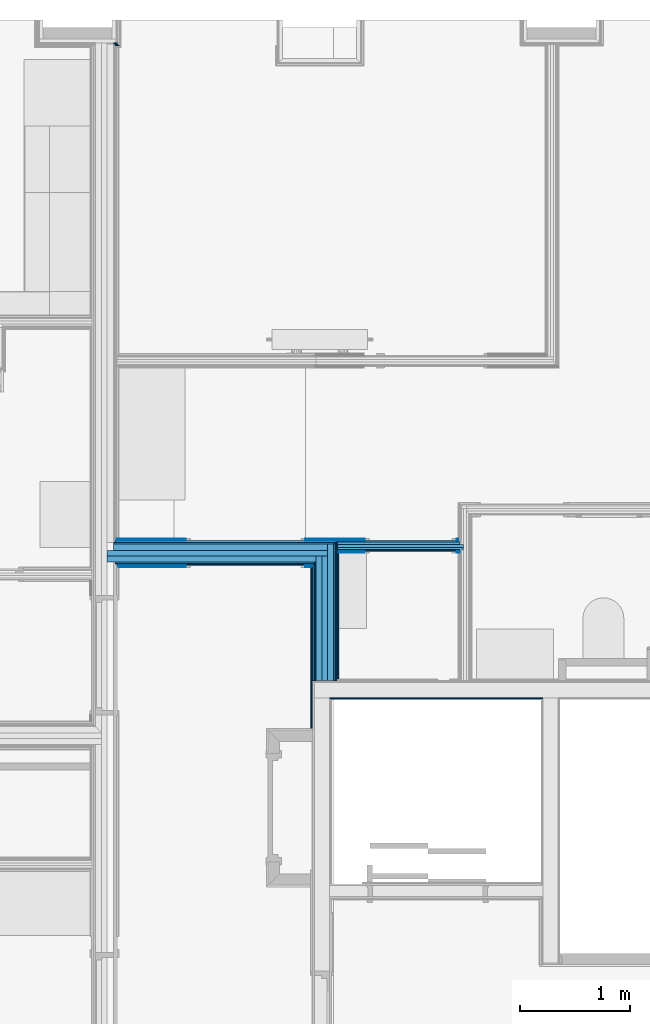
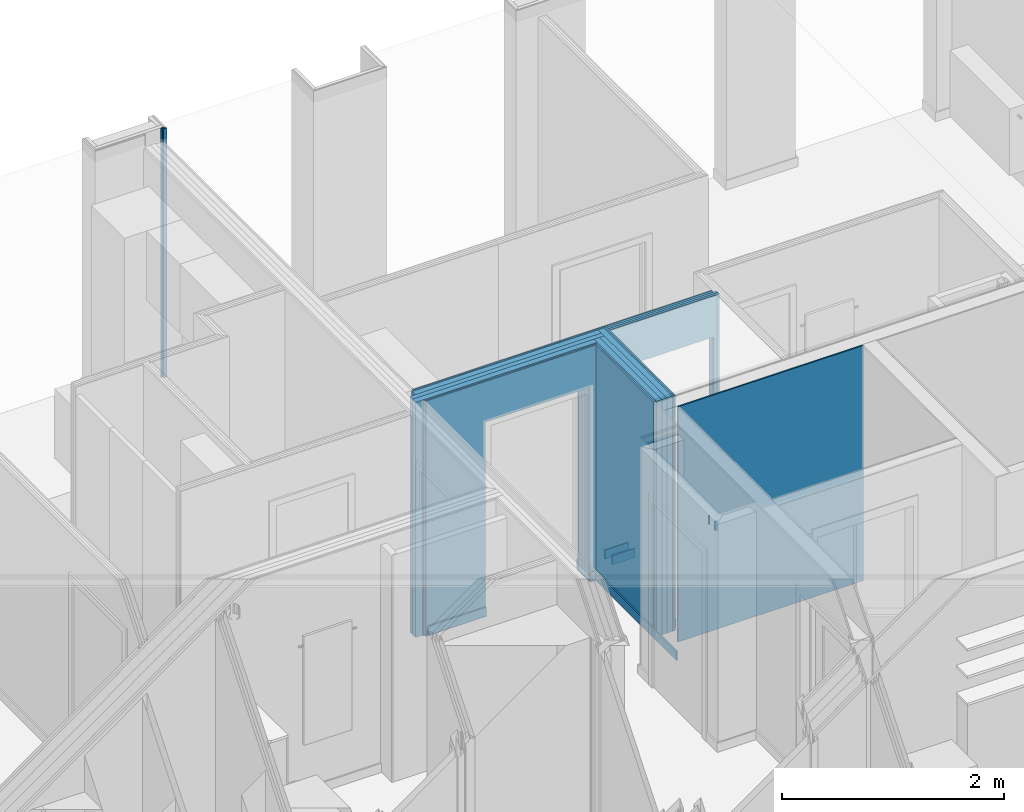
# One storey, part 15 of 85: 28 building element parts, 2 openings, 5 elements without a shape of their own.
"""IFC2X3 building model written with IfcOpenShell, lengths in metres."""

from ifc_helpers import new_model, entity, si_unit, converted_unit, derived_unit, money_unit, direction, frame, frame_2d, origin_with_axes, place, context, subcontext, project, spatial, polyline, rectangle, outline, extrude, material, type_object, element, aggregate, save


model = new_model("IFC2X3")

# Units and contexts
model_context = context("Model", 3, precision=1e-05, world=origin_with_axes(), true_north=direction((0.0, 1.0)))
body_context = subcontext(model_context, "Body", "Model", "MODEL_VIEW", scale=1.0)
ifc_project = project(units=[si_unit("LENGTHUNIT", "METRE"), si_unit("AREAUNIT", "SQUARE_METRE"), si_unit("VOLUMEUNIT", "CUBIC_METRE"), si_unit("ABSORBEDDOSEUNIT", "GRAY"), si_unit("AMOUNTOFSUBSTANCEUNIT", "MOLE"), si_unit("DOSEEQUIVALENTUNIT", "SIEVERT"), si_unit("ELECTRICCAPACITANCEUNIT", "FARAD"), si_unit("ELECTRICCHARGEUNIT", "COULOMB"), si_unit("ELECTRICCONDUCTANCEUNIT", "SIEMENS"), si_unit("ELECTRICCURRENTUNIT", "AMPERE"), si_unit("ELECTRICRESISTANCEUNIT", "OHM"), si_unit("ELECTRICVOLTAGEUNIT", "VOLT"), si_unit("ENERGYUNIT", "JOULE"), si_unit("FORCEUNIT", "NEWTON"), si_unit("FREQUENCYUNIT", "HERTZ"), si_unit("ILLUMINANCEUNIT", "LUX"), si_unit("INDUCTANCEUNIT", "HENRY"), si_unit("LUMINOUSFLUXUNIT", "LUMEN"), si_unit("LUMINOUSINTENSITYUNIT", "CANDELA"), si_unit("MAGNETICFLUXDENSITYUNIT", "TESLA"), si_unit("MAGNETICFLUXUNIT", "WEBER"), si_unit("MASSUNIT", "GRAM"), converted_unit("PLANEANGLEUNIT", "degree", entity("IfcReal", 0.0174532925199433), si_unit("PLANEANGLEUNIT", "RADIAN"), dimensions=[0, 0, 0, 0, 0, 0, 0]), si_unit("POWERUNIT", "WATT"), si_unit("PRESSUREUNIT", "PASCAL"), si_unit("RADIOACTIVITYUNIT", "BECQUEREL"), si_unit("SOLIDANGLEUNIT", "STERADIAN"), si_unit("THERMODYNAMICTEMPERATUREUNIT", "KELVIN"), si_unit("TIMEUNIT", "SECOND"), derived_unit("ACCELERATIONUNIT", [(si_unit("LENGTHUNIT", "METRE"), 1), (si_unit("TIMEUNIT", "SECOND"), -2)]), derived_unit("ANGULARVELOCITYUNIT", [(converted_unit("PLANEANGLEUNIT", "degree", entity("IfcReal", 0.0174532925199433), si_unit("PLANEANGLEUNIT", "RADIAN"), dimensions=[0, 0, 0, 0, 0, 0, 0]), 1), (si_unit("TIMEUNIT", "SECOND"), -1)]), derived_unit("CURVATUREUNIT", [(converted_unit("PLANEANGLEUNIT", "degree", entity("IfcReal", 0.0174532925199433), si_unit("PLANEANGLEUNIT", "RADIAN"), dimensions=[0, 0, 0, 0, 0, 0, 0]), 1), (si_unit("LENGTHUNIT", "METRE"), -1)]), derived_unit("DYNAMICVISCOSITYUNIT", [(si_unit("PRESSUREUNIT", "PASCAL"), 1), (si_unit("TIMEUNIT", "SECOND"), 1)]), derived_unit("HEATFLUXDENSITYUNIT", [(si_unit("POWERUNIT", "WATT"), 1), (si_unit("LENGTHUNIT", "METRE"), -2)]), derived_unit("HEATINGVALUEUNIT", [(si_unit("ENERGYUNIT", "JOULE"), 1), (si_unit("MASSUNIT", "GRAM"), -1)]), derived_unit("INTEGERCOUNTRATEUNIT", [(si_unit("TIMEUNIT", "SECOND"), -1)]), derived_unit("IONCONCENTRATIONUNIT", [(si_unit("MASSUNIT", "GRAM"), 1), (si_unit("VOLUMEUNIT", "CUBIC_METRE"), -1)]), derived_unit("ISOTHERMALMOISTURECAPACITYUNIT", [(si_unit("VOLUMEUNIT", "CUBIC_METRE"), 1), (si_unit("MASSUNIT", "GRAM"), -1)]), derived_unit("KINEMATICVISCOSITYUNIT", [(si_unit("AREAUNIT", "SQUARE_METRE"), 1), (si_unit("TIMEUNIT", "SECOND"), -1)]), derived_unit("LINEARFORCEUNIT", [(si_unit("FORCEUNIT", "NEWTON"), 1), (si_unit("LENGTHUNIT", "METRE"), -1)]), derived_unit("LINEARMOMENTUNIT", [(si_unit("FORCEUNIT", "NEWTON"), 1), (si_unit("LENGTHUNIT", "METRE"), -1)]), derived_unit("LINEARSTIFFNESSUNIT", [(si_unit("FORCEUNIT", "NEWTON"), 1), (si_unit("LENGTHUNIT", "METRE"), -1)]), derived_unit("LINEARVELOCITYUNIT", [(si_unit("LENGTHUNIT", "METRE"), 1), (si_unit("TIMEUNIT", "SECOND"), -1)]), derived_unit("LUMINOUSINTENSITYDISTRIBUTIONUNIT", [(si_unit("LUMINOUSINTENSITYUNIT", "CANDELA"), 1), (si_unit("LUMINOUSFLUXUNIT", "LUMEN"), -1)]), derived_unit("MASSDENSITYUNIT", [(si_unit("MASSUNIT", "GRAM"), 1), (si_unit("VOLUMEUNIT", "CUBIC_METRE"), -1)]), derived_unit("MASSFLOWRATEUNIT", [(si_unit("MASSUNIT", "GRAM"), 1), (si_unit("TIMEUNIT", "SECOND"), -1)]), derived_unit("MASSPERLENGTHUNIT", [(si_unit("MASSUNIT", "GRAM"), 1), (si_unit("LENGTHUNIT", "METRE"), -1)]), derived_unit("MODULUSOFELASTICITYUNIT", [(si_unit("FORCEUNIT", "NEWTON"), 1), (si_unit("AREAUNIT", "SQUARE_METRE"), -1)]), derived_unit("MODULUSOFLINEARSUBGRADEREACTIONUNIT", [(si_unit("FORCEUNIT", "NEWTON"), 1), (si_unit("LENGTHUNIT", "METRE"), -2)]), derived_unit("MODULUSOFROTATIONALSUBGRADEREACTIONUNIT", [(si_unit("FORCEUNIT", "NEWTON"), 1), (si_unit("LENGTHUNIT", "METRE"), 1)]), derived_unit("MODULUSOFSUBGRADEREACTIONUNIT", [(si_unit("FORCEUNIT", "NEWTON"), 1), (si_unit("VOLUMEUNIT", "CUBIC_METRE"), -1)]), derived_unit("MOISTUREDIFFUSIVITYUNIT", [(si_unit("VOLUMEUNIT", "CUBIC_METRE"), 1), (si_unit("TIMEUNIT", "SECOND"), -1)]), derived_unit("MOLECULARWEIGHTUNIT", [(si_unit("MASSUNIT", "GRAM"), 1), (si_unit("AMOUNTOFSUBSTANCEUNIT", "MOLE"), -1)]), derived_unit("PLANARFORCEUNIT", [(si_unit("FORCEUNIT", "NEWTON"), 1), (si_unit("LENGTHUNIT", "METRE"), -2)]), derived_unit("ROTATIONALFREQUENCYUNIT", [(si_unit("TIMEUNIT", "SECOND"), -1)]), derived_unit("ROTATIONALMASSUNIT", [(si_unit("MASSUNIT", "GRAM"), 1), (si_unit("LENGTHUNIT", "METRE"), 2)]), derived_unit("ROTATIONALSTIFFNESSUNIT", [(si_unit("FORCEUNIT", "NEWTON"), 1), (si_unit("LENGTHUNIT", "METRE"), 1), (converted_unit("PLANEANGLEUNIT", "degree", entity("IfcReal", 0.0174532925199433), si_unit("PLANEANGLEUNIT", "RADIAN"), dimensions=[0, 0, 0, 0, 0, 0, 0]), -1)]), derived_unit("SECTIONAREAINTEGRALUNIT", [(si_unit("LENGTHUNIT", "METRE"), 5)]), derived_unit("SECTIONMODULUSUNIT", [(si_unit("LENGTHUNIT", "METRE"), 3)]), derived_unit("SHEARMODULUSUNIT", [(si_unit("FORCEUNIT", "NEWTON"), 1), (si_unit("AREAUNIT", "SQUARE_METRE"), -1)]), derived_unit("SOUNDPOWERUNIT", [(si_unit("ENERGYUNIT", "JOULE"), 1), (si_unit("TIMEUNIT", "SECOND"), -1)]), derived_unit("SPECIFICHEATCAPACITYUNIT", [(si_unit("FORCEUNIT", "NEWTON"), 1), (si_unit("MASSUNIT", "GRAM"), -1), (si_unit("THERMODYNAMICTEMPERATUREUNIT", "KELVIN"), -1)]), derived_unit("TEMPERATUREGRADIENTUNIT", [(si_unit("THERMODYNAMICTEMPERATUREUNIT", "KELVIN"), 1), (si_unit("LENGTHUNIT", "METRE"), -1)]), derived_unit("THERMALADMITTANCEUNIT", [(si_unit("POWERUNIT", "WATT"), 1), (si_unit("AREAUNIT", "SQUARE_METRE"), -1), (si_unit("THERMODYNAMICTEMPERATUREUNIT", "KELVIN"), -1)]), derived_unit("THERMALCONDUCTANCEUNIT", [(si_unit("POWERUNIT", "WATT"), 1), (si_unit("LENGTHUNIT", "METRE"), -1), (si_unit("THERMODYNAMICTEMPERATUREUNIT", "KELVIN"), -1)]), derived_unit("THERMALEXPANSIONCOEFFICIENTUNIT", [(si_unit("THERMODYNAMICTEMPERATUREUNIT", "KELVIN"), -1)]), derived_unit("THERMALRESISTANCEUNIT", [(si_unit("AREAUNIT", "SQUARE_METRE"), 1), (si_unit("POWERUNIT", "WATT"), -1)]), derived_unit("THERMALTRANSMITTANCEUNIT", [(si_unit("POWERUNIT", "WATT"), 1), (si_unit("AREAUNIT", "SQUARE_METRE"), -1), (si_unit("THERMODYNAMICTEMPERATUREUNIT", "KELVIN"), -1)]), derived_unit("TORQUEUNIT", [(si_unit("FORCEUNIT", "NEWTON"), 1), (si_unit("LENGTHUNIT", "METRE"), 1)]), derived_unit("VAPORPERMEABILITYUNIT", [(si_unit("MASSUNIT", "GRAM"), 1), (si_unit("TIMEUNIT", "SECOND"), -1)]), derived_unit("VOLUMETRICFLOWRATEUNIT", [(si_unit("VOLUMEUNIT", "CUBIC_METRE"), 1), (si_unit("TIMEUNIT", "SECOND"), -1)]), derived_unit("WARPINGCONSTANTUNIT", [(si_unit("LENGTHUNIT", "METRE"), 6)]), derived_unit("WARPINGMOMENTUNIT", [(si_unit("FORCEUNIT", "NEWTON"), 1), (si_unit("LENGTHUNIT", "METRE"), 2)]), money_unit("GBP")], contexts=[model_context])

# Site, building, storey
site_placement = place(None, origin_with_axes())
site = spatial("IfcSite", under=ifc_project, at=site_placement, Name="Site", CompositionType="ELEMENT")
building_placement = place(site_placement, origin_with_axes())
building = spatial("IfcBuilding", under=site, at=building_placement, Name="Building01", CompositionType="ELEMENT")
storey_placement = place(building_placement, frame((0.0, 0.0, 12.13), z_axis=(0.0, 0.0, 1.0), x_axis=(1.0, 0.0, 0.0)))
storey = spatial("IfcBuildingStorey", under=building, at=storey_placement, Name="3F", CompositionType="ELEMENT", Elevation=12.13)

# Wall, opening, building element parts
wall_type_1 = type_object("IfcWallType", Name="SHE_A-Walls_Type01c_Partywall_225mm_twin_tall", PredefinedType="NOTDEFINED")
wall_1_placement = place(storey_placement, frame((9.197, 9.949704, 0.0), z_axis=(0.0, 0.0, 1.0), x_axis=(-1.0, 0.0, 0.0)))
wall_1 = element("IfcWall", 1, at=wall_1_placement, inside=storey, type_object=wall_type_1, Name="1C", ObjectType="SHE_A-Walls_Type01c_Partywall_225mm_twin_tall")
opening_1_placement = place(wall_1_placement, frame((0.200331, -0.153, 0.0), z_axis=(0.0, 0.0, 1.0), x_axis=(1.0, 0.0, 0.0)))
element("IfcOpeningElement", 2, at=opening_1_placement, cuts=wall_1, Name="Opening", ObjectType="Opening", context=body_context, shape_type="SweptSolid", body=[
    extrude(rectangle(XDim=1.084, YDim=2.142, at=frame_2d((-0.542, 1.071), x_axis=(-1.0, 0.0))), frame((0.0, 0.0, 0.0), z_axis=(0.0, 1.0, 0.0), x_axis=(-1.0, 0.0, 0.0)), (0.0, 0.0, 1.0), 0.255),
])
ifc_material_1 = material(Name="A_BSUK_Walls_Timber")
placement_1 = place(wall_1_placement, origin_with_axes())
building_element_part_1 = element("IfcBuildingElementPart", 3, at=placement_1, material=ifc_material_1, Name="1", context=body_context, shape_type="SweptSolid", body=[
    extrude(outline(polyline([(1.907331, -0.138), (-0.088, -0.138), (-0.103, -0.153), (1.907331, -0.153), (1.907331, -0.138)])), frame((0.0, 0.0, 0.015), z_axis=(0.0, 0.0, 1.0), x_axis=(1.0, 0.0, 0.0)), (0.0, 0.0, 1.0), 0.1),
])
ifc_material_2 = material(Name="A_BSUK_WallInternal_Finishes_Plasterboard")
building_element_part_2 = element("IfcBuildingElementPart", 4, at=placement_1, material=ifc_material_2, Name="2", context=body_context, shape_type="SweptSolid", body=[
    extrude(rectangle(XDim=2.010331, YDim=0.015, at=frame_2d((0.917166, -0.1305), x_axis=(-1.0, 0.0))), origin_with_axes(), (0.0, 0.0, 1.0), 2.59),
])
building_element_part_3 = element("IfcBuildingElementPart", 5, at=placement_1, material=ifc_material_2, Name="3", context=body_context, shape_type="SweptSolid", body=[
    extrude(rectangle(XDim=2.010331, YDim=0.015, at=frame_2d((0.932166, -0.1155), x_axis=(-1.0, 0.0))), origin_with_axes(), (0.0, 0.0, 1.0), 2.59),
])
ifc_material_3 = material(Name="Air Cavity")
building_element_part_4 = element("IfcBuildingElementPart", 6, at=placement_1, material=ifc_material_3, Name="4", context=body_context, shape_type="SweptSolid", body=[
    extrude(rectangle(XDim=2.010331, YDim=0.058, at=frame_2d((0.932166, -0.079), x_axis=(-1.0, 0.0))), origin_with_axes(), (0.0, 0.0, 1.0), 2.59),
])
ifc_material_4 = material(Name="A_BSUK_Insulation")
building_element_part_5 = element("IfcBuildingElementPart", 7, at=placement_1, material=ifc_material_4, Name="5", context=body_context, shape_type="SweptSolid", body=[
    extrude(rectangle(XDim=1.995331, YDim=0.05, at=frame_2d((0.997666, -0.025), x_axis=(-1.0, 0.0))), origin_with_axes(), (0.0, 0.0, 1.0), 2.59),
])
building_element_part_6 = element("IfcBuildingElementPart", 8, at=placement_1, material=ifc_material_3, Name="6", context=body_context, shape_type="SweptSolid", body=[
    extrude(rectangle(XDim=1.995331, YDim=0.057, at=frame_2d((0.997666, 0.0285), x_axis=(-1.0, 0.0))), origin_with_axes(), (0.0, 0.0, 1.0), 2.59),
])
building_element_part_7 = element("IfcBuildingElementPart", 9, at=placement_1, material=ifc_material_2, Name="7", context=body_context, shape_type="SweptSolid", body=[
    extrude(outline(polyline([(1.922331, 0.072), (0.122, 0.072), (0.107, 0.057), (1.922331, 0.057), (1.922331, 0.072)])), origin_with_axes(), (0.0, 0.0, 1.0), 2.59),
])
building_element_part_8 = element("IfcBuildingElementPart", 10, at=placement_1, material=ifc_material_2, Name="8", context=body_context, shape_type="SweptSolid", body=[
    extrude(outline(polyline([(1.907331, 0.087), (0.137, 0.087), (0.122, 0.072), (1.907331, 0.072), (1.907331, 0.087)])), origin_with_axes(), (0.0, 0.0, 1.0), 2.59),
])
building_element_part_9 = element("IfcBuildingElementPart", 11, at=placement_1, material=ifc_material_1, Name="9", context=body_context, shape_type="SweptSolid", body=[
    extrude(outline(polyline([(1.892331, 0.102), (0.152, 0.102), (0.137, 0.087), (1.892331, 0.087), (1.892331, 0.102)])), frame((0.0, 0.0, 0.015), z_axis=(0.0, 0.0, 1.0), x_axis=(1.0, 0.0, 0.0)), (0.0, 0.0, 1.0), 0.1),
])
aggregate(wall_1, [building_element_part_1, building_element_part_2, building_element_part_3, building_element_part_4, building_element_part_5, building_element_part_6, building_element_part_7, building_element_part_8, building_element_part_9])

wall_type_2 = type_object("IfcWallType", Name="SHE_A-Walls_Type05a_Partition_95mm_tall", PredefinedType="NOTDEFINED")
wall_2_placement = place(storey_placement, frame((10.428871, 10.052704, 0.0), z_axis=(0.0, 0.0, 1.0), x_axis=(-1.0, 0.0, 0.0)))
wall_2 = element("IfcWall", 12, at=wall_2_placement, inside=storey, type_object=wall_type_2, Name="5A", ObjectType="SHE_A-Walls_Type05a_Partition_95mm_tall")
opening_2_placement = place(wall_2_placement, frame((0.062, -0.05, 0.0), z_axis=(0.0, 0.0, 1.0), x_axis=(1.0, 0.0, 0.0)))
element("IfcOpeningElement", 13, at=opening_2_placement, cuts=wall_2, Name="Opening", ObjectType="Opening", context=body_context, shape_type="SweptSolid", body=[
    extrude(rectangle(XDim=0.834, YDim=2.142, at=frame_2d((-0.417, 1.071), x_axis=(1.0, 0.0))), frame((0.0, 0.0, 0.0), z_axis=(0.0, 1.0, 0.0), x_axis=(-1.0, 0.0, 0.0)), (0.0, 0.0, 1.0), 0.125),
])
placement_2 = place(wall_2_placement, origin_with_axes())
building_element_part_10 = element("IfcBuildingElementPart", 14, at=placement_2, material=ifc_material_1, Name="1", context=body_context, shape_type="SweptSolid", body=[
    extrude(rectangle(XDim=0.015, YDim=1.093871, at=frame_2d((0.596935, -0.0425), x_axis=(0.0, -1.0))), frame((0.0, 0.0, 0.015), z_axis=(0.0, 0.0, 1.0), x_axis=(1.0, 0.0, 0.0)), (0.0, 0.0, 1.0), 0.1),
])
building_element_part_11 = element("IfcBuildingElementPart", 15, at=placement_2, material=ifc_material_2, Name="2", context=body_context, shape_type="SweptSolid", body=[
    extrude(rectangle(XDim=1.108871, YDim=0.012, at=frame_2d((0.589435, -0.029), x_axis=(-1.0, 0.0))), origin_with_axes(), (0.0, 0.0, 1.0), 2.59),
])
building_element_part_12 = element("IfcBuildingElementPart", 16, at=placement_2, material=ifc_material_3, Name="3", context=body_context, shape_type="SweptSolid", body=[
    extrude(rectangle(XDim=1.108871, YDim=0.023, at=frame_2d((0.589435, -0.0115), x_axis=(-1.0, 0.0))), origin_with_axes(), (0.0, 0.0, 1.0), 2.59),
])
building_element_part_13 = element("IfcBuildingElementPart", 17, at=placement_2, material=ifc_material_4, Name="4", context=body_context, shape_type="SweptSolid", body=[
    extrude(rectangle(XDim=1.143871, YDim=0.025, at=frame_2d((0.571935, 0.0125), x_axis=(-1.0, 0.0))), origin_with_axes(), (0.0, 0.0, 1.0), 2.59),
])
building_element_part_14 = element("IfcBuildingElementPart", 18, at=placement_2, material=ifc_material_3, Name="5", context=body_context, shape_type="SweptSolid", body=[
    extrude(rectangle(XDim=1.143871, YDim=0.023, at=frame_2d((0.571935, 0.0365), x_axis=(-1.0, 0.0))), origin_with_axes(), (0.0, 0.0, 1.0), 2.59),
])
building_element_part_15 = element("IfcBuildingElementPart", 19, at=placement_2, material=ifc_material_2, Name="6", context=body_context, shape_type="SweptSolid", body=[
    extrude(rectangle(XDim=1.108871, YDim=0.012, at=frame_2d((0.589435, 0.054), x_axis=(-1.0, 0.0))), origin_with_axes(), (0.0, 0.0, 1.0), 2.59),
])
building_element_part_16 = element("IfcBuildingElementPart", 20, at=placement_2, material=ifc_material_1, Name="7", context=body_context, shape_type="SweptSolid", body=[
    extrude(rectangle(XDim=1.093871, YDim=0.015, at=frame_2d((0.581935, 0.0675), x_axis=(-1.0, 0.0))), frame((0.0, 0.0, 0.015), z_axis=(0.0, 0.0, 1.0), x_axis=(1.0, 0.0, 0.0)), (0.0, 0.0, 1.0), 0.1),
])
aggregate(wall_2, [building_element_part_10, building_element_part_11, building_element_part_12, building_element_part_13, building_element_part_14, building_element_part_15, building_element_part_16])

# Wall, building element part
wall_type_3 = type_object("IfcWallType", Name="SHE_A-Walls_Type03a_BlockworkWall_170mm", PredefinedType="NOTDEFINED")
wall_3_placement = place(storey_placement, frame((17.985, 8.805, 0.0), z_axis=(0.0, 0.0, 1.0), x_axis=(-1.0, 0.0, 0.0)))
wall_3 = element("IfcWall", 21, at=wall_3_placement, inside=storey, type_object=wall_type_3, Name="4B", ObjectType="SHE_A-Walls_Type03a_BlockworkWall_170mm")
ifc_material_5 = material(Name="A_BSUK_WallInternal_Finishes_Plaster")
building_element_part_17_placement = place(wall_3_placement, origin_with_axes())
building_element_part_17 = element("IfcBuildingElementPart", 22, at=building_element_part_17_placement, material=ifc_material_5, Name="10", context=body_context, shape_type="SweptSolid", body=[
    extrude(rectangle(XDim=1.93, YDim=0.015, at=frame_2d((7.805, 0.1475), x_axis=(-1.0, 0.0))), origin_with_axes(), (0.0, 0.0, 1.0), 2.59),
])
aggregate(wall_3, [building_element_part_17])

# Wall, building element parts
wall_4_placement = place(storey_placement, frame((9.147, 8.82, 0.0), z_axis=(0.0, 0.0, 1.0), x_axis=(0.0, 1.0, 0.0)))
wall_4 = element("IfcWall", 23, at=wall_4_placement, inside=storey, type_object=wall_type_1, Name="1C", ObjectType="SHE_A-Walls_Type01c_Partywall_225mm_twin_tall")
placement_3 = place(wall_4_placement, origin_with_axes())
building_element_part_18 = element("IfcBuildingElementPart", 24, at=placement_3, material=ifc_material_1, Name="1", context=body_context, shape_type="SweptSolid", body=[
    extrude(rectangle(XDim=1.157704, YDim=0.015, at=frame_2d((0.593852, -0.1455), x_axis=(-1.0, 0.0))), frame((0.0, 0.0, 0.015), z_axis=(0.0, 0.0, 1.0), x_axis=(1.0, 0.0, 0.0)), (0.0, 0.0, 1.0), 0.1),
])
building_element_part_19 = element("IfcBuildingElementPart", 25, at=placement_3, material=ifc_material_2, Name="2", context=body_context, shape_type="SweptSolid", body=[
    extrude(rectangle(XDim=1.252704, YDim=0.015, at=frame_2d((0.626352, -0.1305), x_axis=(-1.0, 0.0))), origin_with_axes(), (0.0, 0.0, 1.0), 2.59),
])
building_element_part_20 = element("IfcBuildingElementPart", 26, at=placement_3, material=ifc_material_2, Name="3", context=body_context, shape_type="SweptSolid", body=[
    extrude(rectangle(XDim=1.237704, YDim=0.015, at=frame_2d((0.618852, -0.1155), x_axis=(-1.0, 0.0))), origin_with_axes(), (0.0, 0.0, 1.0), 2.59),
])
building_element_part_21 = element("IfcBuildingElementPart", 27, at=placement_3, material=ifc_material_3, Name="4", context=body_context, shape_type="SweptSolid", body=[
    extrude(rectangle(XDim=1.237704, YDim=0.058, at=frame_2d((0.618852, -0.079), x_axis=(-1.0, 0.0))), origin_with_axes(), (0.0, 0.0, 1.0), 2.59),
])
building_element_part_22 = element("IfcBuildingElementPart", 28, at=placement_3, material=ifc_material_4, Name="5", context=body_context, shape_type="SweptSolid", body=[
    extrude(rectangle(XDim=1.129704, YDim=0.05, at=frame_2d((0.564852, -0.025), x_axis=(-1.0, 0.0))), origin_with_axes(), (0.0, 0.0, 1.0), 2.59),
])
building_element_part_23 = element("IfcBuildingElementPart", 29, at=placement_3, material=ifc_material_3, Name="6", context=body_context, shape_type="SweptSolid", body=[
    extrude(rectangle(XDim=1.129704, YDim=0.057, at=frame_2d((0.564852, 0.0285), x_axis=(-1.0, 0.0))), origin_with_axes(), (0.0, 0.0, 1.0), 2.59),
])
building_element_part_24 = element("IfcBuildingElementPart", 30, at=placement_3, material=ifc_material_2, Name="7", context=body_context, shape_type="SweptSolid", body=[
    extrude(outline(polyline([(1.057704, 0.072), (0.0, 0.072), (0.0, 0.057), (1.072704, 0.057), (1.057704, 0.072)])), origin_with_axes(), (0.0, 0.0, 1.0), 2.59),
])
building_element_part_25 = element("IfcBuildingElementPart", 31, at=placement_3, material=ifc_material_2, Name="8", context=body_context, shape_type="SweptSolid", body=[
    extrude(outline(polyline([(1.042704, 0.087), (0.0, 0.087), (0.0, 0.072), (1.057704, 0.072), (1.042704, 0.087)])), origin_with_axes(), (0.0, 0.0, 1.0), 2.59),
])
building_element_part_26 = element("IfcBuildingElementPart", 32, at=placement_3, material=ifc_material_1, Name="9", context=body_context, shape_type="SweptSolid", body=[
    extrude(outline(polyline([(1.027704, 0.102), (-0.432595, 0.102), (-0.432595, 0.087), (1.042704, 0.087), (1.027704, 0.102)])), frame((0.0, 0.0, 0.015), z_axis=(0.0, 0.0, 1.0), x_axis=(1.0, 0.0, 0.0)), (0.0, 0.0, 1.0), 0.1),
])
aggregate(wall_4, [building_element_part_18, building_element_part_19, building_element_part_20, building_element_part_21, building_element_part_22, building_element_part_23, building_element_part_24, building_element_part_25, building_element_part_26])

wall_type_4 = type_object("IfcWallType", Name="SHE_A-Walls_Type06f_ExternalWallInsulation_48+15mm", PredefinedType="NOTDEFINED")
wall_5_placement = place(storey_placement, frame((7.283, 14.63, 0.0), z_axis=(0.0, 0.0, 1.0), x_axis=(-1.0, 0.0, 0.0)))
wall_5 = element("IfcWall", 33, at=wall_5_placement, inside=storey, type_object=wall_type_4, Name="6F", ObjectType="SHE_A-Walls_Type06f_ExternalWallInsulation_48+15mm")
placement_4 = place(wall_5_placement, origin_with_axes())
building_element_part_27 = element("IfcBuildingElementPart", 34, at=placement_4, material=ifc_material_2, Name="2", context=body_context, shape_type="SweptSolid", body=[
    extrude(rectangle(XDim=0.012, YDim=0.035331, at=frame_2d((0.005666, 0.042), x_axis=(0.0, -1.0))), origin_with_axes(), (0.0, 0.0, 1.0), 2.74),
])
building_element_part_28 = element("IfcBuildingElementPart", 35, at=placement_4, material=ifc_material_2, Name="4", context=body_context, shape_type="SweptSolid", body=[
    extrude(outline(polyline([(-0.027, 0.063), (-0.012, 0.048), (0.008331, 0.048), (0.008331, 0.063), (-0.027, 0.063)])), origin_with_axes(), (0.0, 0.0, 1.0), 2.74),
])
aggregate(wall_5, [building_element_part_27, building_element_part_28])

save(model, "model.ifc")
